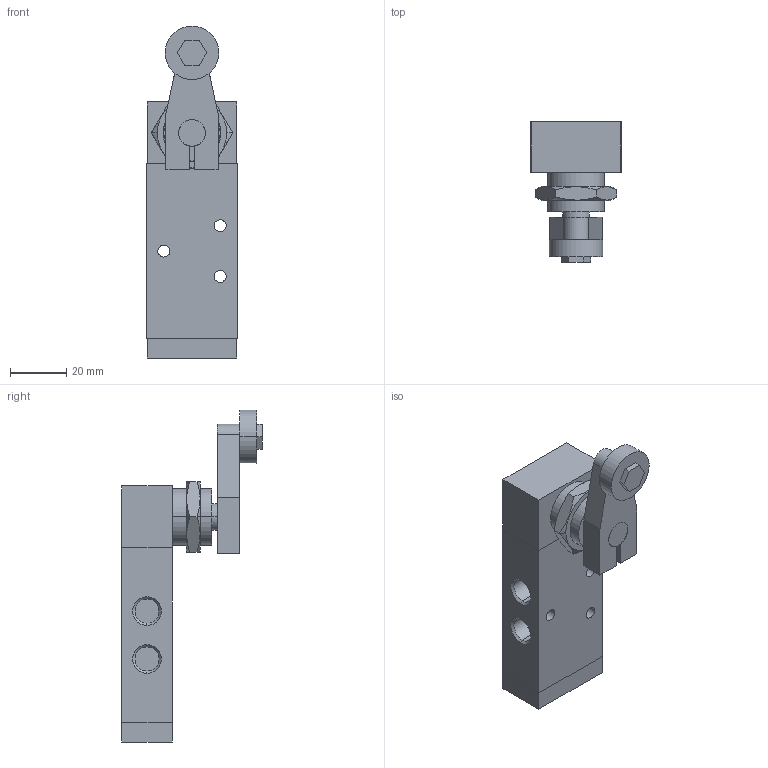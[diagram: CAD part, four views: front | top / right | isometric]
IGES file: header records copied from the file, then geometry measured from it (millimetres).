
Global section: file name: No Iges File Name specified; native system: AutoDesk Inventor R11.0; preprocessor: AutoDesk Inventor Iges Exporter R11.0; author: No Author specified; organization: No Organization specified; date: 20061219.114137; units: millimetre
Bounding box: 32 x 49.99 x 118 mm (x, y, z)
Volume: 48757.3 mm3; surface area: 17481.5 mm2
Topology: 2 solids, 2 shells, 97 faces, 224 edges, 140 vertices
Faces by surface type: plane 46, bspline 27, revolution 11, cylinder 9, cone 4
